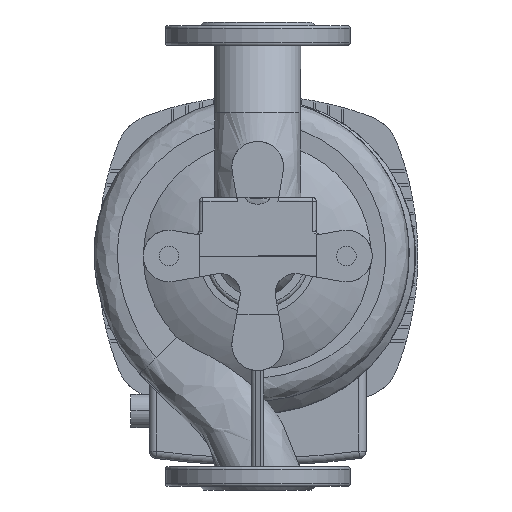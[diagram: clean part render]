
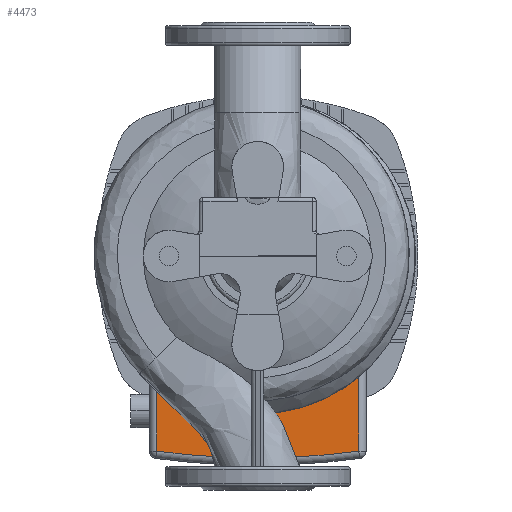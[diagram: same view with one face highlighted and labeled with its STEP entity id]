
A CAD part, front view. The second image highlights one B-rep face of the part: STEP entity #4473.
In plain terms, the highlighted planar face has unit normal (0, -1, 0).
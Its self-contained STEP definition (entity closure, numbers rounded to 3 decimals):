
#1368 = DIRECTION ( 'NONE',  ( 0., 0., 1. ) ) ;
#2216 = CARTESIAN_POINT ( 'NONE',  ( 0., 274.5, 0. ) ) ;
#3693 = DIRECTION ( 'NONE',  ( 0., 0., -1. ) ) ;
#4080 = VERTEX_POINT ( 'NONE', #38133 ) ;
#4473 = ADVANCED_FACE ( 'NONE', ( #17388 ), #37308, .T. ) ;
#4704 = CARTESIAN_POINT ( 'NONE',  ( 0., 274.5, 443. ) ) ;
#5083 = VECTOR ( 'NONE', #3693, 1000. ) ;
#5500 = DIRECTION ( 'NONE',  ( 0., -1., 0. ) ) ;
#7568 = CARTESIAN_POINT ( 'NONE',  ( -82., 274.5, -128.5 ) ) ;
#9130 = CARTESIAN_POINT ( 'NONE',  ( 0., 274.5, 443. ) ) ;
#9691 = EDGE_CURVE ( 'NONE', #21726, #4080, #15009, .T. ) ;
#12985 = CARTESIAN_POINT ( 'NONE',  ( -68., 274.5, -128.5 ) ) ;
#14361 = DIRECTION ( 'NONE',  ( -1., 0., 0. ) ) ;
#15009 = LINE ( 'NONE', #18099, #17477 ) ;
#16465 = EDGE_CURVE ( 'NONE', #36104, #27480, #17714, .T. ) ;
#17388 = FACE_OUTER_BOUND ( 'NONE', #28794, .T. ) ;
#17477 = VECTOR ( 'NONE', #46290, 1000. ) ;
#17630 = DIRECTION ( 'NONE',  ( 0., -1., 0. ) ) ;
#17714 = CIRCLE ( 'NONE', #46624, 607. ) ;
#18099 = CARTESIAN_POINT ( 'NONE',  ( 82., 274.5, -128.5 ) ) ;
#19175 = ORIENTED_EDGE ( 'NONE', *, *, #16465, .T. ) ;
#20641 = AXIS2_PLACEMENT_3D ( 'NONE', #12985, #5500, #1368 ) ;
#21726 = VERTEX_POINT ( 'NONE', #50727 ) ;
#22563 = AXIS2_PLACEMENT_3D ( 'NONE', #2216, #45388, #14361 ) ;
#24920 = DIRECTION ( 'NONE',  ( 0., 0., 1. ) ) ;
#25782 = EDGE_CURVE ( 'NONE', #47419, #36104, #31346, .T. ) ;
#27480 = VERTEX_POINT ( 'NONE', #49384 ) ;
#28278 = CARTESIAN_POINT ( 'NONE',  ( -82., 274.5, -158.436 ) ) ;
#28712 = ORIENTED_EDGE ( 'NONE', *, *, #25782, .T. ) ;
#28794 = EDGE_LOOP ( 'NONE', ( #50309, #28712, #19175, #41288, #41449 ) ) ;
#31346 = LINE ( 'NONE', #7568, #5083 ) ;
#34243 = CARTESIAN_POINT ( 'NONE',  ( -82., 274.5, -72.569 ) ) ;
#34789 = CIRCLE ( 'NONE', #44706, 607. ) ;
#36104 = VERTEX_POINT ( 'NONE', #28278 ) ;
#37308 = PLANE ( 'NONE',  #20641 ) ;
#37437 = CIRCLE ( 'NONE', #22563, 109.5 ) ;
#38133 = CARTESIAN_POINT ( 'NONE',  ( 82., 274.5, -72.569 ) ) ;
#40161 = EDGE_CURVE ( 'NONE', #27480, #21726, #34789, .T. ) ;
#41288 = ORIENTED_EDGE ( 'NONE', *, *, #40161, .T. ) ;
#41449 = ORIENTED_EDGE ( 'NONE', *, *, #9691, .T. ) ;
#44706 = AXIS2_PLACEMENT_3D ( 'NONE', #4704, #17630, #48388 ) ;
#45388 = DIRECTION ( 'NONE',  ( 0., 1., 0. ) ) ;
#46290 = DIRECTION ( 'NONE',  ( 0., 0., 1. ) ) ;
#46624 = AXIS2_PLACEMENT_3D ( 'NONE', #9130, #48428, #24920 ) ;
#47419 = VERTEX_POINT ( 'NONE', #34243 ) ;
#48388 = DIRECTION ( 'NONE',  ( 0., 0., 1. ) ) ;
#48428 = DIRECTION ( 'NONE',  ( 0., -1., 0. ) ) ;
#49384 = CARTESIAN_POINT ( 'NONE',  ( 0., 274.5, -164. ) ) ;
#50147 = EDGE_CURVE ( 'NONE', #4080, #47419, #37437, .T. ) ;
#50309 = ORIENTED_EDGE ( 'NONE', *, *, #50147, .T. ) ;
#50727 = CARTESIAN_POINT ( 'NONE',  ( 82., 274.5, -158.436 ) ) ;
